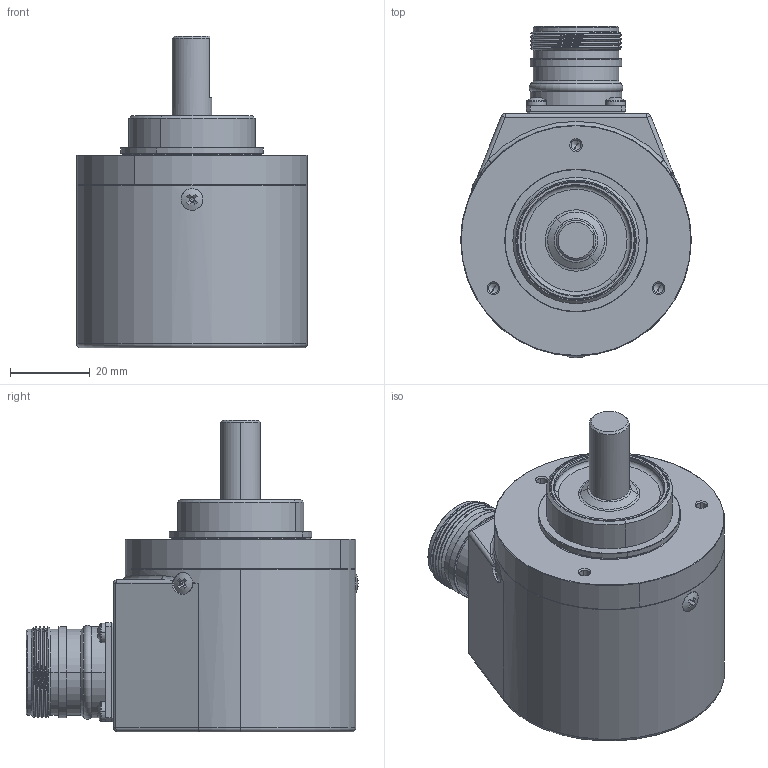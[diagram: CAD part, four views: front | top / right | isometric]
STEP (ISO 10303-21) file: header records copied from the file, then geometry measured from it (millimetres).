
FILE_DESCRIPTION (( 'STEP AP214' ), '1' );
FILE_NAME ('H11x50.STEP', '2025-04-01T08:50:39', ( '' ), ( '' ), 'SwSTEP 2.0', 'SolidWorks 2019', '' );
FILE_SCHEMA (( 'AUTOMOTIVE_DESIGN' ));
Length unit declared in the file: millimetre
Products named in the file (1): H11x50
Bounding box: 58 x 83.53 x 78.45 mm (x, y, z)
Volume: 74704.2 mm3; surface area: 36646.1 mm2
Topology: 1 solids, 13 shells, 761 faces, 1723 edges, 997 vertices
Faces by surface type: plane 246, cylinder 198, cone 197, torus 86, bspline 30, sphere 4
Entity records: 31825 total; most frequent: CARTESIAN_POINT 6644, DIRECTION 3766, ORIENTED_EDGE 3354, EDGE_CURVE 1677, AXIS2_PLACEMENT_3D 1584, VERTEX_POINT 997, CIRCLE 852, EDGE_LOOP 828
